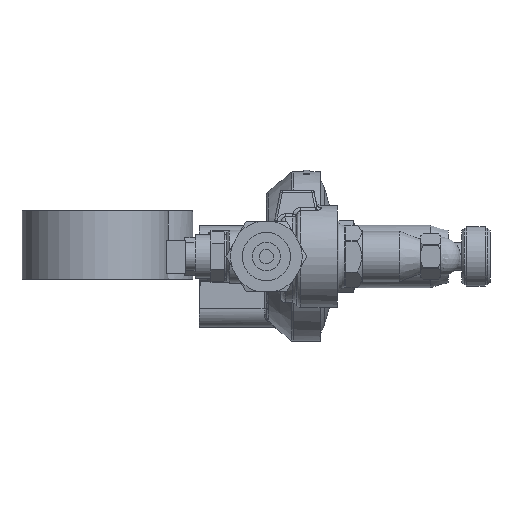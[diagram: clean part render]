
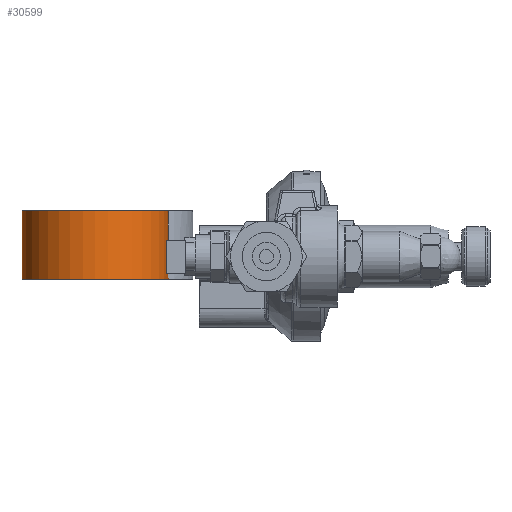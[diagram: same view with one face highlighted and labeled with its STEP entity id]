
A CAD part, left-side view. The second image highlights one B-rep face of the part: STEP entity #30599.
In plain terms, the highlighted cylindrical face has radius 31 mm (diameter 62 mm), a full revolution.
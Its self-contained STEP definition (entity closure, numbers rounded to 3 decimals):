
#30498=CARTESIAN_POINT('',(38.0,-12.3,0.));
#30499=VERTEX_POINT('',#30498);
#30500=CARTESIAN_POINT('',(7.,-12.3,0.0));
#30501=DIRECTION('',(0.0,1.0,0.0));
#30502=DIRECTION('',(-1.0,0.0,0.0));
#30503=AXIS2_PLACEMENT_3D('',#30500,#30501,#30502);
#30504=CIRCLE('',#30503,31.0);
#30505=EDGE_CURVE('',#30499,#30499,#30504,.T.);
#30518=CARTESIAN_POINT('',(14.,0.,30.199));
#30519=VERTEX_POINT('',#30518);
#30520=CARTESIAN_POINT('',(14.,14.,30.199));
#30521=VERTEX_POINT('',#30520);
#30522=CARTESIAN_POINT('',(14.,0.,30.199));
#30523=DIRECTION('',(0.0,1.0,0.0));
#30524=VECTOR('',#30523,14.);
#30525=LINE('',#30522,#30524);
#30526=EDGE_CURVE('',#30519,#30521,#30525,.T.);
#30553=CARTESIAN_POINT('',(7.,14.,0.0));
#30554=DIRECTION('',(0.0,1.0,0.0));
#30555=DIRECTION('',(-1.0,0.0,0.0));
#30556=AXIS2_PLACEMENT_3D('',#30553,#30554,#30555);
#30557=CYLINDRICAL_SURFACE('',#30556,31.0);
#30558=ORIENTED_EDGE('',*,*,#30505,.T.);
#30559=EDGE_LOOP('',(#30558));
#30560=FACE_OUTER_BOUND('',#30559,.T.);
#30561=CARTESIAN_POINT('',(38.0,16.5,0.));
#30562=VERTEX_POINT('',#30561);
#30563=CARTESIAN_POINT('',(7.,16.5,0.0));
#30564=DIRECTION('',(0.0,-1.0,0.0));
#30565=DIRECTION('',(-1.0,0.0,0.0));
#30566=AXIS2_PLACEMENT_3D('',#30563,#30564,#30565);
#30567=CIRCLE('',#30566,31.0);
#30568=EDGE_CURVE('',#30562,#30562,#30567,.T.);
#30569=ORIENTED_EDGE('',*,*,#30568,.T.);
#30570=EDGE_LOOP('',(#30569));
#30571=FACE_BOUND('',#30570,.T.);
#30572=CARTESIAN_POINT('',(0.0,14.,30.199));
#30573=VERTEX_POINT('',#30572);
#30574=CARTESIAN_POINT('',(7.,14.,0.0));
#30575=DIRECTION('',(0.0,-1.0,0.0));
#30576=DIRECTION('',(-1.0,0.0,0.0));
#30577=AXIS2_PLACEMENT_3D('',#30574,#30575,#30576);
#30578=CIRCLE('',#30577,31.0);
#30579=EDGE_CURVE('',#30521,#30573,#30578,.T.);
#30580=ORIENTED_EDGE('',*,*,#30579,.F.);
#30581=ORIENTED_EDGE('',*,*,#30526,.F.);
#30582=CARTESIAN_POINT('',(0.0,0.,30.199));
#30583=VERTEX_POINT('',#30582);
#30584=CARTESIAN_POINT('',(7.,0.0,0.0));
#30585=DIRECTION('',(0.0,1.0,0.0));
#30586=DIRECTION('',(-1.0,0.0,0.0));
#30587=AXIS2_PLACEMENT_3D('',#30584,#30585,#30586);
#30588=CIRCLE('',#30587,31.0);
#30589=EDGE_CURVE('',#30583,#30519,#30588,.T.);
#30590=ORIENTED_EDGE('',*,*,#30589,.F.);
#30591=CARTESIAN_POINT('',(0.0,14.,30.199));
#30592=DIRECTION('',(0.0,-1.0,0.0));
#30593=VECTOR('',#30592,14.);
#30594=LINE('',#30591,#30593);
#30595=EDGE_CURVE('',#30573,#30583,#30594,.T.);
#30596=ORIENTED_EDGE('',*,*,#30595,.F.);
#30597=EDGE_LOOP('',(#30580,#30581,#30590,#30596));
#30598=FACE_BOUND('',#30597,.T.);
#30599=ADVANCED_FACE('',(#30560,#30571,#30598),#30557,.T.);
